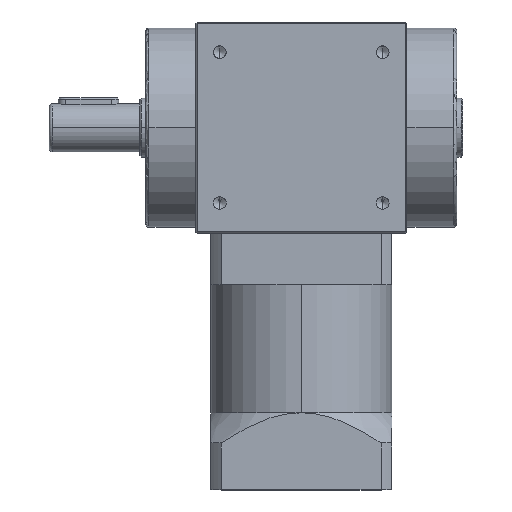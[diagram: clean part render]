
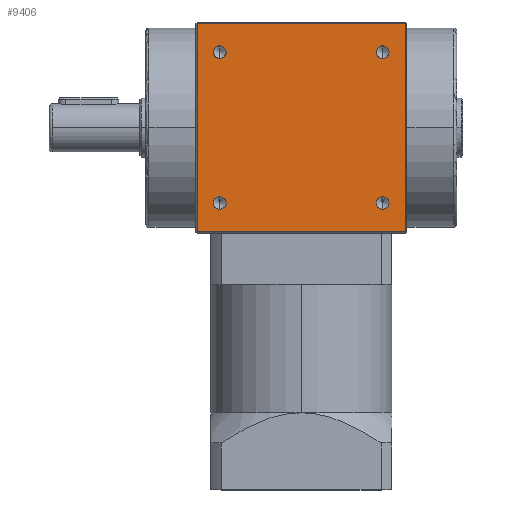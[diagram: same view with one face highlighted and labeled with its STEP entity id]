
A CAD part, top view. The second image highlights one B-rep face of the part: STEP entity #9406.
In plain terms, the highlighted planar face has unit normal (0, 0, 1).
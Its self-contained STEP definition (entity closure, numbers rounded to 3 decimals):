
#67 = EDGE_LOOP ( 'NONE', ( #1043, #8382 ) ) ;
#668 = VERTEX_POINT ( 'NONE', #5599 ) ;
#701 = FACE_BOUND ( 'NONE', #67, .T. ) ;
#793 = DIRECTION ( 'NONE',  ( -1., 0., 0. ) ) ;
#802 = DIRECTION ( 'NONE',  ( 0., 0., -1. ) ) ;
#813 = CARTESIAN_POINT ( 'NONE',  ( 0., 0., 35. ) ) ;
#923 = PLANE ( 'NONE',  #2936 ) ;
#1041 = CARTESIAN_POINT ( 'NONE',  ( -34.5, 34.5, 35. ) ) ;
#1043 = ORIENTED_EDGE ( 'NONE', *, *, #6637, .F. ) ;
#1119 = ORIENTED_EDGE ( 'NONE', *, *, #2893, .T. ) ;
#1397 = CARTESIAN_POINT ( 'NONE',  ( 27., 22.9, 35. ) ) ;
#1427 = CARTESIAN_POINT ( 'NONE',  ( 27., 25., 35. ) ) ;
#1477 = AXIS2_PLACEMENT_3D ( 'NONE', #5209, #5201, #5142 ) ;
#1496 = LINE ( 'NONE', #5213, #1588 ) ;
#1588 = VECTOR ( 'NONE', #5212, 1000. ) ;
#1698 = VERTEX_POINT ( 'NONE', #6236 ) ;
#1825 = CIRCLE ( 'NONE', #7360, 2.1 ) ;
#1951 = DIRECTION ( 'NONE',  ( 0., 0., 1. ) ) ;
#1952 = AXIS2_PLACEMENT_3D ( 'NONE', #5677, #5655, #5647 ) ;
#2121 = CARTESIAN_POINT ( 'NONE',  ( -27., 27.1, 35. ) ) ;
#2306 = CARTESIAN_POINT ( 'NONE',  ( -27., 22.9, 35. ) ) ;
#2350 = CIRCLE ( 'NONE', #3872, 2.1 ) ;
#2627 = DIRECTION ( 'NONE',  ( 0., -1., 0. ) ) ;
#2634 = DIRECTION ( 'NONE',  ( 0., 0., 1. ) ) ;
#2695 = CARTESIAN_POINT ( 'NONE',  ( -27., 25., 35. ) ) ;
#2758 = EDGE_CURVE ( 'NONE', #4170, #6458, #4239, .T. ) ;
#2817 = FACE_BOUND ( 'NONE', #4688, .T. ) ;
#2893 = EDGE_CURVE ( 'NONE', #6458, #9600, #3248, .T. ) ;
#2936 = AXIS2_PLACEMENT_3D ( 'NONE', #813, #802, #793 ) ;
#3101 = EDGE_CURVE ( 'NONE', #3855, #9278, #2350, .T. ) ;
#3169 = EDGE_CURVE ( 'NONE', #9600, #5167, #1496, .T. ) ;
#3248 = LINE ( 'NONE', #6152, #3257 ) ;
#3257 = VECTOR ( 'NONE', #6213, 1000. ) ;
#3362 = CARTESIAN_POINT ( 'NONE',  ( 27., 27.1, 35. ) ) ;
#3489 = EDGE_CURVE ( 'NONE', #5167, #4170, #9640, .T. ) ;
#3855 = VERTEX_POINT ( 'NONE', #2121 ) ;
#3872 = AXIS2_PLACEMENT_3D ( 'NONE', #5584, #5573, #5552 ) ;
#3953 = DIRECTION ( 'NONE',  ( 1., 0., 0. ) ) ;
#3968 = CARTESIAN_POINT ( 'NONE',  ( 0., -34.5, 35. ) ) ;
#4068 = ORIENTED_EDGE ( 'NONE', *, *, #6532, .F. ) ;
#4130 = ORIENTED_EDGE ( 'NONE', *, *, #2758, .T. ) ;
#4158 = VECTOR ( 'NONE', #6827, 1000. ) ;
#4170 = VERTEX_POINT ( 'NONE', #6036 ) ;
#4239 = LINE ( 'NONE', #6728, #4158 ) ;
#4321 = CIRCLE ( 'NONE', #8053, 2.1 ) ;
#4437 = EDGE_LOOP ( 'NONE', ( #4130, #1119, #6907, #7241 ) ) ;
#4468 = ORIENTED_EDGE ( 'NONE', *, *, #3101, .F. ) ;
#4688 = EDGE_LOOP ( 'NONE', ( #7925, #4468 ) ) ;
#4706 = EDGE_LOOP ( 'NONE', ( #4068, #9370 ) ) ;
#4799 = EDGE_LOOP ( 'NONE', ( #6641, #7297 ) ) ;
#5142 = DIRECTION ( 'NONE',  ( 0., -1., 0. ) ) ;
#5167 = VERTEX_POINT ( 'NONE', #9491 ) ;
#5201 = DIRECTION ( 'NONE',  ( 0., 0., 1. ) ) ;
#5209 = CARTESIAN_POINT ( 'NONE',  ( 27., 25., 35. ) ) ;
#5212 = DIRECTION ( 'NONE',  ( 0., -1., 0. ) ) ;
#5213 = CARTESIAN_POINT ( 'NONE',  ( -34.5, 0., 35. ) ) ;
#5271 = CIRCLE ( 'NONE', #10083, 2.1 ) ;
#5354 = AXIS2_PLACEMENT_3D ( 'NONE', #7364, #5391, #9115 ) ;
#5358 = DIRECTION ( 'NONE',  ( 0., -1., 0. ) ) ;
#5391 = DIRECTION ( 'NONE',  ( 0., 0., 1. ) ) ;
#5412 = DIRECTION ( 'NONE',  ( 0., 0., 1. ) ) ;
#5418 = CARTESIAN_POINT ( 'NONE',  ( -27., -25., 35. ) ) ;
#5552 = DIRECTION ( 'NONE',  ( 0., -1., 0. ) ) ;
#5573 = DIRECTION ( 'NONE',  ( 0., 0., 1. ) ) ;
#5584 = CARTESIAN_POINT ( 'NONE',  ( -27., 25., 35. ) ) ;
#5599 = CARTESIAN_POINT ( 'NONE',  ( 27., -27.1, 35. ) ) ;
#5647 = DIRECTION ( 'NONE',  ( 0., -1., 0. ) ) ;
#5655 = DIRECTION ( 'NONE',  ( 0., 0., 1. ) ) ;
#5677 = CARTESIAN_POINT ( 'NONE',  ( -27., -25., 35. ) ) ;
#5696 = DIRECTION ( 'NONE',  ( 0., -1., 0. ) ) ;
#5729 = CIRCLE ( 'NONE', #1477, 2.1 ) ;
#5972 = CIRCLE ( 'NONE', #1952, 2.1 ) ;
#6036 = CARTESIAN_POINT ( 'NONE',  ( 34.5, -34.5, 35. ) ) ;
#6071 = DIRECTION ( 'NONE',  ( 0., -1., 0. ) ) ;
#6119 = DIRECTION ( 'NONE',  ( 0., 0., 1. ) ) ;
#6139 = CARTESIAN_POINT ( 'NONE',  ( 27., -25., 35. ) ) ;
#6152 = CARTESIAN_POINT ( 'NONE',  ( 0., 34.5, 35. ) ) ;
#6198 = CIRCLE ( 'NONE', #8811, 2.1 ) ;
#6213 = DIRECTION ( 'NONE',  ( -1., 0., 0. ) ) ;
#6236 = CARTESIAN_POINT ( 'NONE',  ( -27., -27.1, 35. ) ) ;
#6331 = VERTEX_POINT ( 'NONE', #3362 ) ;
#6423 = VERTEX_POINT ( 'NONE', #7676 ) ;
#6458 = VERTEX_POINT ( 'NONE', #7048 ) ;
#6532 = EDGE_CURVE ( 'NONE', #668, #6423, #6198, .T. ) ;
#6637 = EDGE_CURVE ( 'NONE', #1698, #8338, #4321, .T. ) ;
#6641 = ORIENTED_EDGE ( 'NONE', *, *, #8035, .F. ) ;
#6728 = CARTESIAN_POINT ( 'NONE',  ( 34.5, 0., 35. ) ) ;
#6827 = DIRECTION ( 'NONE',  ( 0., 1., 0. ) ) ;
#6872 = FACE_BOUND ( 'NONE', #4799, .T. ) ;
#6907 = ORIENTED_EDGE ( 'NONE', *, *, #3169, .T. ) ;
#6946 = EDGE_CURVE ( 'NONE', #6423, #668, #7080, .T. ) ;
#7048 = CARTESIAN_POINT ( 'NONE',  ( 34.5, 34.5, 35. ) ) ;
#7080 = CIRCLE ( 'NONE', #5354, 2.1 ) ;
#7226 = EDGE_CURVE ( 'NONE', #8338, #1698, #5972, .T. ) ;
#7241 = ORIENTED_EDGE ( 'NONE', *, *, #3489, .T. ) ;
#7275 = EDGE_CURVE ( 'NONE', #6331, #9810, #5729, .T. ) ;
#7297 = ORIENTED_EDGE ( 'NONE', *, *, #7275, .F. ) ;
#7360 = AXIS2_PLACEMENT_3D ( 'NONE', #2695, #2634, #2627 ) ;
#7364 = CARTESIAN_POINT ( 'NONE',  ( 27., -25., 35. ) ) ;
#7676 = CARTESIAN_POINT ( 'NONE',  ( 27., -22.9, 35. ) ) ;
#7925 = ORIENTED_EDGE ( 'NONE', *, *, #9209, .F. ) ;
#8035 = EDGE_CURVE ( 'NONE', #9810, #6331, #5271, .T. ) ;
#8053 = AXIS2_PLACEMENT_3D ( 'NONE', #5418, #5412, #5358 ) ;
#8338 = VERTEX_POINT ( 'NONE', #9637 ) ;
#8382 = ORIENTED_EDGE ( 'NONE', *, *, #7226, .F. ) ;
#8632 = FACE_BOUND ( 'NONE', #4706, .T. ) ;
#8811 = AXIS2_PLACEMENT_3D ( 'NONE', #6139, #6119, #6071 ) ;
#9115 = DIRECTION ( 'NONE',  ( 0., -1., 0. ) ) ;
#9170 = FACE_OUTER_BOUND ( 'NONE', #4437, .T. ) ;
#9209 = EDGE_CURVE ( 'NONE', #9278, #3855, #1825, .T. ) ;
#9278 = VERTEX_POINT ( 'NONE', #2306 ) ;
#9370 = ORIENTED_EDGE ( 'NONE', *, *, #6946, .F. ) ;
#9406 = ADVANCED_FACE ( 'NONE', ( #9170, #2817, #6872, #701, #8632 ), #923, .F. ) ;
#9491 = CARTESIAN_POINT ( 'NONE',  ( -34.5, -34.5, 35. ) ) ;
#9567 = VECTOR ( 'NONE', #3953, 1000. ) ;
#9600 = VERTEX_POINT ( 'NONE', #1041 ) ;
#9637 = CARTESIAN_POINT ( 'NONE',  ( -27., -22.9, 35. ) ) ;
#9640 = LINE ( 'NONE', #3968, #9567 ) ;
#9810 = VERTEX_POINT ( 'NONE', #1397 ) ;
#10083 = AXIS2_PLACEMENT_3D ( 'NONE', #1427, #1951, #5696 ) ;
